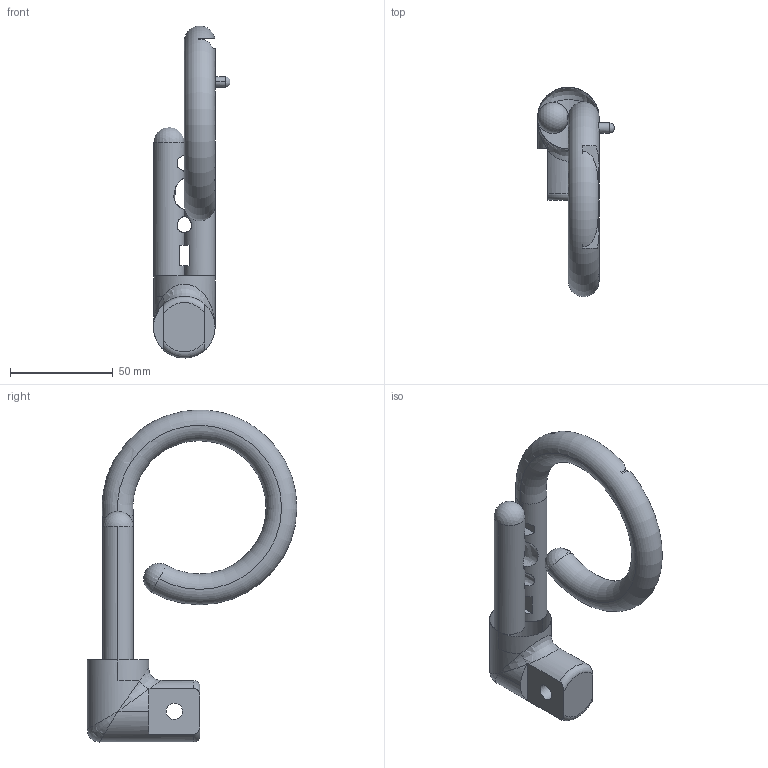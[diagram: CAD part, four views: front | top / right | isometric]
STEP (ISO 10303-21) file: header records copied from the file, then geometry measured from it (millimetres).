
FILE_DESCRIPTION(('CATIA V5 STEP Exchange'),'2;1');
FILE_NAME('C:\Users\user\SkyDrive\Stuff\cad\Instructables\Hand adapter\CATIA V5, STEP ,IGES Files\Arm.stp','2017-01-13T13:22:07+00:00',('none'),('none'),'CATIA Version 5 Release 20 GA (IN-10)','CATIA V5 STEP AP203','none');
FILE_SCHEMA(('CONFIG_CONTROL_DESIGN'));
Length unit declared in the file: millimetre
Products named in the file (1): Part1
Bounding box: 37.48 x 102.25 x 161.88 mm (x, y, z)
Volume: 99722.3 mm3; surface area: 25780.5 mm2
Topology: 1 solids, 1 shells, 99 faces, 290 edges, 185 vertices
Faces by surface type: plane 68, cylinder 16, sphere 4, torus 4, extrusion 4, bspline 3
Entity records: 4037 total; most frequent: CARTESIAN_POINT 1755, ORIENTED_EDGE 558, DIRECTION 310, EDGE_CURVE 279, VERTEX_POINT 182, VECTOR 156, LINE 152, AXIS2_PLACEMENT_3D 105
